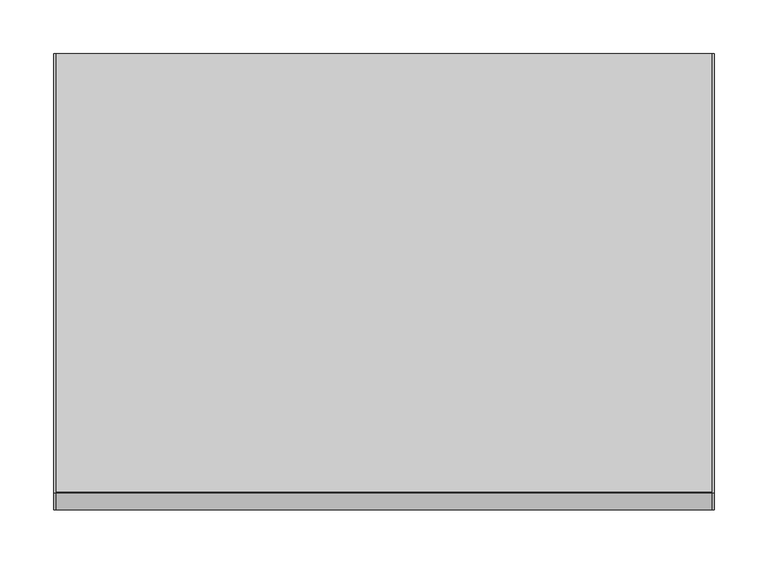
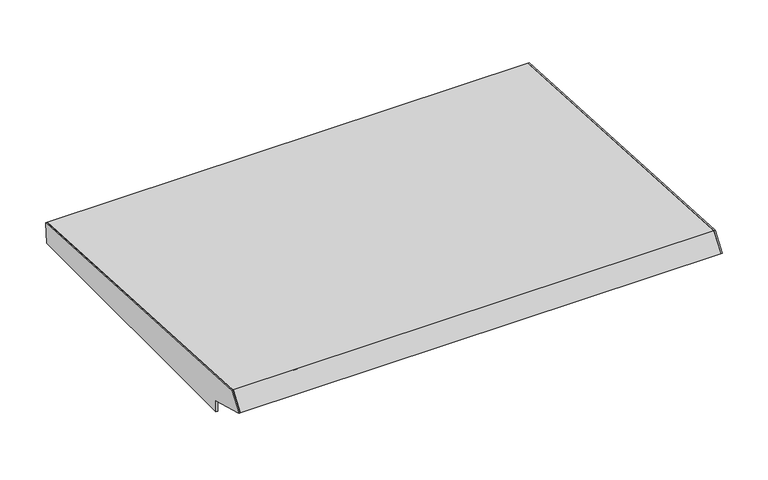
"""IFC4 building model written with IfcOpenShell, lengths in millimetres: electric distribution board geometry, DKC_Защитный козырек : DKC_Защитный козырек."""

from ifc_helpers import new_model, si_unit, frame, origin, place, context, project, spatial, polyline, outline, extrude, source, transform, mapped, element, save


def electric_distribution_board_88516b2b(model_context):
    return source(origin(), model_context, "Body", "SweptSolid", [
        extrude(outline(polyline([(-420.6496972, 13.4574155), (-404.7934442, 34.6387797), (-404.0790663, 33.9244018), (-419.8491574, 12.8581358), (-420.6496972, 13.4574155)])), frame((-304.0, 0.0, 0.0), z_axis=(1.0, 0.0, 0.0), x_axis=(0.0, 1.0, 0.0)), (0.0, 0.0, 1.0), 608.0),
        extrude(outline(polyline([(-404.8796061, 34.5236815), (2.4930786, 11.6427322), (0.0, -14.2375), (-1.0046292, -14.2375), (1.3978919, 10.7026696), (-404.2537834, 33.4869547), (-404.8796061, 34.5236815)])), frame((-304.0, 0.0, 0.0), z_axis=(1.0, 0.0, 0.0), x_axis=(0.0, 1.0, 0.0)), (0.0, 0.0, 1.0), 608.0),
        extrude(outline(polyline([(0.0, -14.2375), (-370.79753, -14.2375), (-370.79753, 0.0), (-420.6496972, 13.4574155), (-404.8796061, 34.5236815), (2.4930786, 11.6427322), (0.0, -14.2375)])), frame((-306.0, 0.0, 0.0), z_axis=(1.0, 0.0, 0.0), x_axis=(0.0, 1.0, 0.0)), (0.0, 0.0, 1.0), 2.0),
        extrude(outline(polyline([(0.0, -14.2375), (-370.79753, -14.2375), (-370.79753, 0.0), (-420.6496972, 13.4574155), (-404.8796061, 34.5236815), (2.4930786, 11.6427322), (0.0, -14.2375)])), frame((304.0, 0.0, 0.0), z_axis=(1.0, 0.0, 0.0), x_axis=(0.0, 1.0, 0.0)), (0.0, 0.0, 1.0), 2.0),
    ])


if __name__ == "__main__":
    model = new_model("IFC4")
    model_context = context("Model", 3, world=origin())
    ifc_project = project(units=[si_unit("LENGTHUNIT", "METRE", prefix="MILLI")], contexts=[model_context])
    site = spatial("IfcSite", under=ifc_project)
    building = spatial("IfcBuilding", under=site)
    placement = place(None, origin())
    electric_distribution_board_shape = electric_distribution_board_88516b2b(model_context)
    element("IfcElectricDistributionBoard", 1, ObjectType="DKC_Защитный козырек : DKC_Защитный козырек", at=placement, inside=building, context=model_context, shape_type="MappedRepresentation", body=[
        mapped(electric_distribution_board_shape, transform((0.0, 0.0, 0.0), x_axis=(1.0, 0.0, 0.0), y_axis=(0.0, 1.0, 0.0), z_axis=(0.0, 0.0, 1.0))),
    ])
    save(model, "model.ifc")
